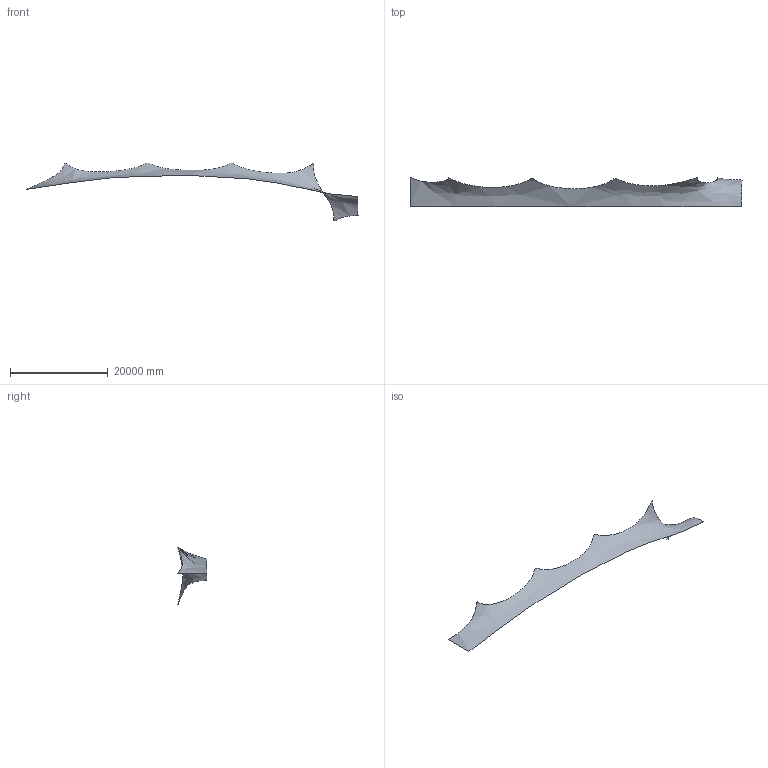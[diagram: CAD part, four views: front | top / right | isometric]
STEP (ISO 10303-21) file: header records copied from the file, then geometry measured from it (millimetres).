
FILE_DESCRIPTION(/* description */ (''),/* implementation_level */ '2;1');
FILE_NAME(/* name */ 'Phase 2',/* time_stamp */ '2026-09-22T16:19:54+02:00',/* author */ (''),/* organization */ (''),/* preprocessor_version */ 'ST-DEVELOPER v19.2',/* originating_system */ 'Rhino 8.35',/* authorisation */ '');
FILE_SCHEMA (('CONFIG_CONTROL_DESIGN'));
Length unit declared in the file: metre
Products named in the file (1): Document
Bounding box: 68004.9 x 5999.94 x 11852.4 mm (x, y, z)
Surface area: 377508911.7 mm2 (no closed solid volume)
Topology: 0 solids, 1 shells, 1 faces, 166 edges, 166 vertices
Faces by surface type: bspline 1
Entity records: 2390 total; most frequent: CARTESIAN_POINT 1630, ORIENTED_EDGE 166, EDGE_CURVE 166, B_SPLINE_CURVE_WITH_KNOTS 166, VERTEX_POINT 166, ORGANIZATION 7, PERSON_AND_ORGANIZATION 7, LOCAL_TIME 5
